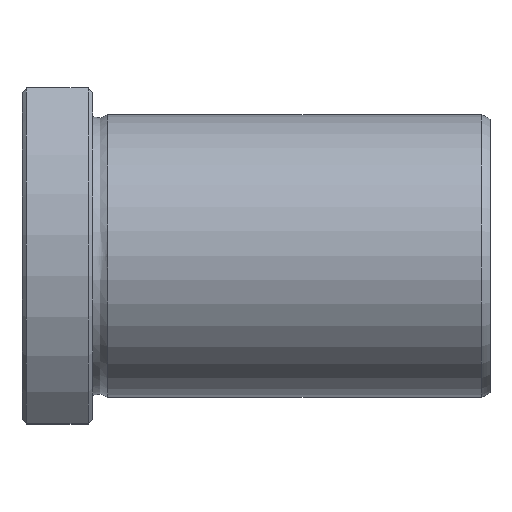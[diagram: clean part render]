
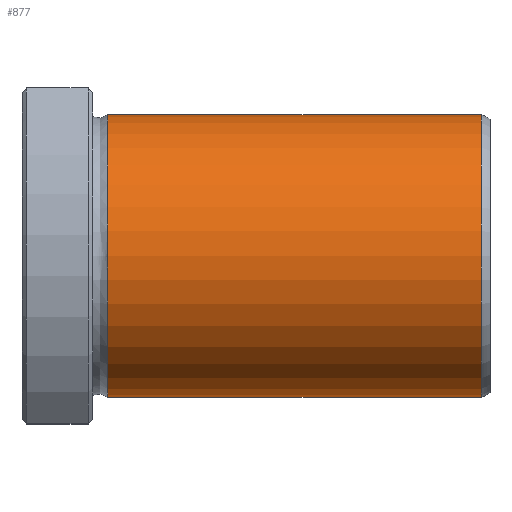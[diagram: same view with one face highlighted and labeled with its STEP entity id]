
A CAD part, top view. The second image highlights one B-rep face of the part: STEP entity #877.
In plain terms, the highlighted cylindrical face has radius 16 mm (diameter 32 mm), a full revolution.
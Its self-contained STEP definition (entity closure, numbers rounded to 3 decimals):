
#843=CARTESIAN_POINT('',(51.999,0.0,16.));
#844=VERTEX_POINT('',#843);
#845=CARTESIAN_POINT('',(51.999,0.0,0.0));
#846=DIRECTION('',(-1.0,0.0,0.0));
#847=DIRECTION('',(0.0,0.0,1.0));
#848=AXIS2_PLACEMENT_3D('',#845,#846,#847);
#849=CIRCLE('',#848,16.);
#850=EDGE_CURVE('',#844,#844,#849,.T.);
#858=CARTESIAN_POINT('',(30.859,0.0,0.0));
#859=DIRECTION('',(-1.0,0.0,0.0));
#860=DIRECTION('',(0.0,0.0,1.0));
#861=AXIS2_PLACEMENT_3D('',#858,#859,#860);
#862=CYLINDRICAL_SURFACE('',#861,16.);
#863=CARTESIAN_POINT('',(9.72,0.0,16.0));
#864=VERTEX_POINT('',#863);
#865=CARTESIAN_POINT('',(9.72,0.0,0.0));
#866=DIRECTION('',(-1.0,0.0,0.0));
#867=DIRECTION('',(0.0,0.0,1.0));
#868=AXIS2_PLACEMENT_3D('',#865,#866,#867);
#869=CIRCLE('',#868,16.0);
#870=EDGE_CURVE('',#864,#864,#869,.T.);
#871=ORIENTED_EDGE('',*,*,#870,.F.);
#872=EDGE_LOOP('',(#871));
#873=FACE_OUTER_BOUND('',#872,.T.);
#874=ORIENTED_EDGE('',*,*,#850,.T.);
#875=EDGE_LOOP('',(#874));
#876=FACE_BOUND('',#875,.T.);
#877=ADVANCED_FACE('',(#873,#876),#862,.T.);
